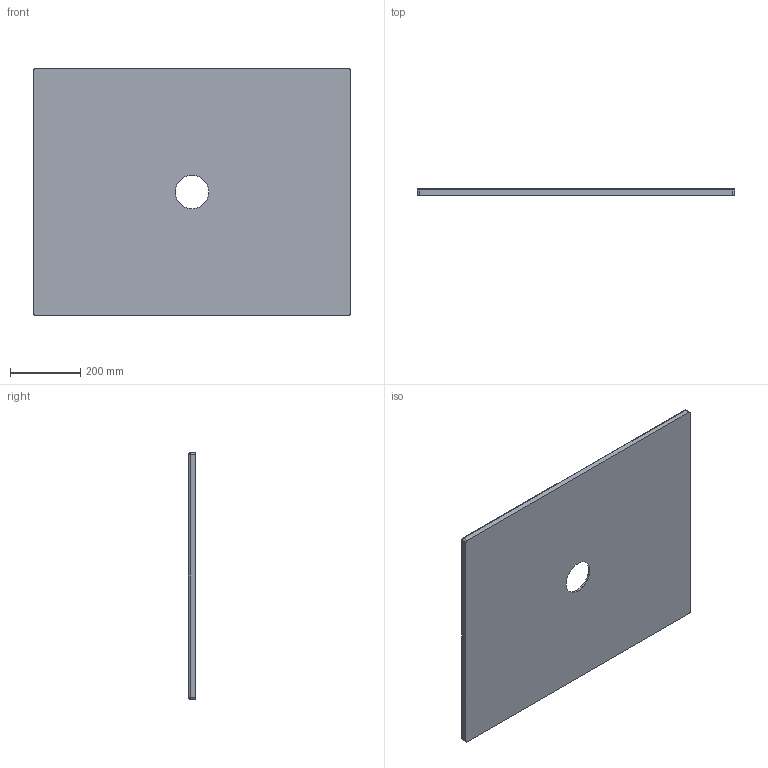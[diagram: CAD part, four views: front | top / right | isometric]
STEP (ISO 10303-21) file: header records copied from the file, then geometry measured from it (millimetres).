
FILE_DESCRIPTION (( 'STEP AP203' ), '1' );
FILE_NAME ('SDPD09007020.STEP', '2023-03-31T10:44:26', ( '' ), ( '' ), 'SwSTEP 2.0', 'SolidWorks 2023', '' );
FILE_SCHEMA (( 'CONFIG_CONTROL_DESIGN' ));
Length unit declared in the file: millimetre
Products named in the file (1): SDPD09007020
Bounding box: 900 x 20 x 700 mm (x, y, z)
Volume: 10471734.3 mm3; surface area: 1301060.7 mm2
Topology: 1 solids, 1 shells, 33 faces, 83 edges, 54 vertices
Faces by surface type: cylinder 9, bspline 9, plane 8, sphere 4, torus 2, cone 1
Full cylindrical faces by diameter (mm): 95 x1
Entity records: 2809 total; most frequent: CARTESIAN_POINT 2043, ORIENTED_EDGE 150, DIRECTION 124, EDGE_CURVE 75, AXIS2_PLACEMENT_3D 52, VERTEX_POINT 51, EDGE_LOOP 42, FACE_OUTER_BOUND 37
